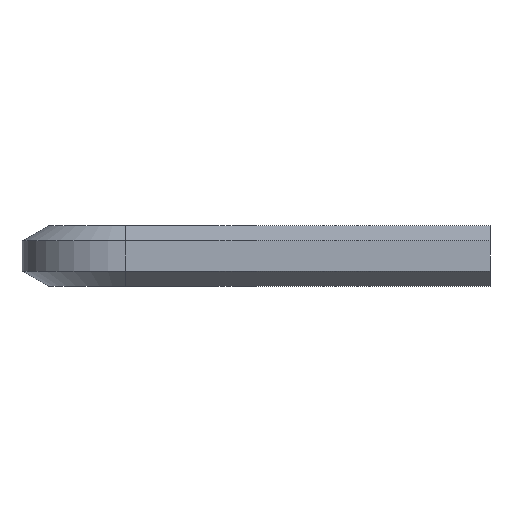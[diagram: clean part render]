
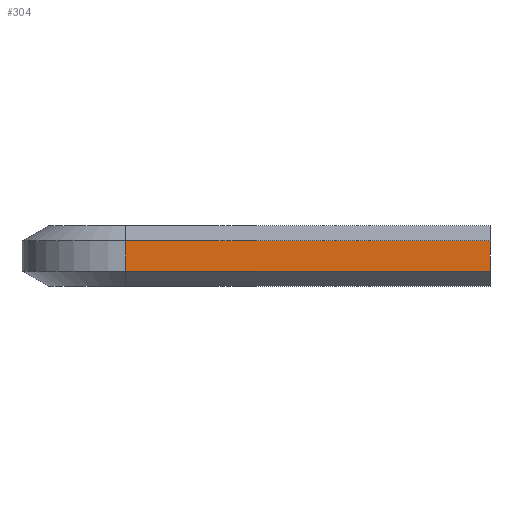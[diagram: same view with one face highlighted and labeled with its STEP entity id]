
A CAD part, left-side view. The second image highlights one B-rep face of the part: STEP entity #304.
In plain terms, the highlighted planar face has unit normal (-1, 0, 0).
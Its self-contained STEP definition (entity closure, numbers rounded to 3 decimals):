
#28=FACE_OUTER_BOUND('',#48,.T.);
#48=EDGE_LOOP('',(#209,#210,#211,#212));
#70=LINE('',#468,#106);
#71=LINE('',#471,#107);
#72=LINE('',#473,#108);
#73=LINE('',#474,#109);
#106=VECTOR('',#376,10.);
#107=VECTOR('',#379,10.);
#108=VECTOR('',#380,10.);
#109=VECTOR('',#381,10.);
#139=VERTEX_POINT('',#461);
#142=VERTEX_POINT('',#466);
#143=VERTEX_POINT('',#470);
#144=VERTEX_POINT('',#472);
#166=EDGE_CURVE('',#139,#142,#70,.T.);
#167=EDGE_CURVE('',#143,#139,#71,.T.);
#168=EDGE_CURVE('',#144,#142,#72,.T.);
#169=EDGE_CURVE('',#143,#144,#73,.T.);
#209=ORIENTED_EDGE('',*,*,#167,.T.);
#210=ORIENTED_EDGE('',*,*,#166,.T.);
#211=ORIENTED_EDGE('',*,*,#168,.F.);
#212=ORIENTED_EDGE('',*,*,#169,.F.);
#290=PLANE('',#344);
#304=ADVANCED_FACE('',(#28),#290,.T.);
#344=AXIS2_PLACEMENT_3D('',#469,#377,#378);
#376=DIRECTION('',(0.,-1.,0.));
#377=DIRECTION('center_axis',(-1.,0.,0.));
#378=DIRECTION('ref_axis',(0.,0.,-1.));
#379=DIRECTION('',(0.,0.,-1.));
#380=DIRECTION('',(0.,0.,-1.));
#381=DIRECTION('',(0.,-1.,0.));
#461=CARTESIAN_POINT('',(0.,14.,-0.577));
#466=CARTESIAN_POINT('',(0.,0.,-0.577));
#468=CARTESIAN_POINT('',(0.,14.,-0.577));
#469=CARTESIAN_POINT('Origin',(0.,14.,0.577));
#470=CARTESIAN_POINT('',(0.,14.,0.577));
#471=CARTESIAN_POINT('',(0.,14.,-0.577));
#472=CARTESIAN_POINT('',(0.,0.,0.577));
#473=CARTESIAN_POINT('',(0.,0.,-0.577));
#474=CARTESIAN_POINT('',(0.,14.,0.577));
